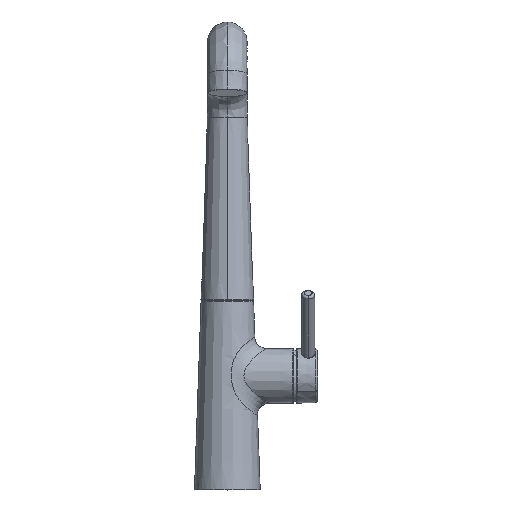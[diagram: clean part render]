
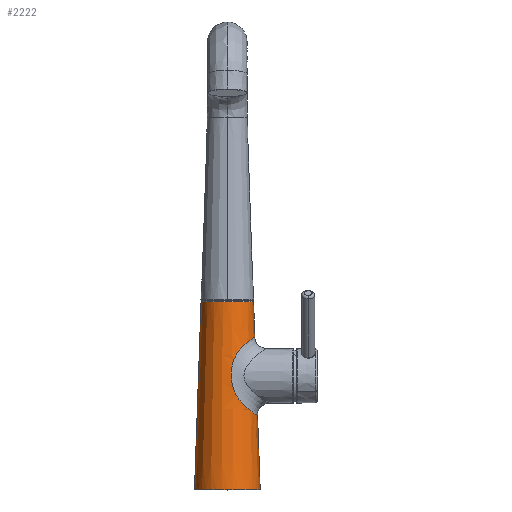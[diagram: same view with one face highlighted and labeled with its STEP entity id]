
A CAD part, top view. The second image highlights one B-rep face of the part: STEP entity #2222.
In plain terms, the highlighted conical face has half-angle 2.001 degrees and reference radius 22.813 mm.
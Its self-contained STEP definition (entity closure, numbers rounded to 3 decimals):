
#1=DIRECTION('',(0.035,0.999,0.));
#2=VECTOR('',#1,145.33);
#3=CARTESIAN_POINT('',(-25.35,0.,0.));
#4=LINE('',#3,#2);
#5=CARTESIAN_POINT('',(0.,145.241,0.));
#6=DIRECTION('',(0.,1.,0.));
#7=DIRECTION('',(-1.,0.,0.));
#8=AXIS2_PLACEMENT_3D('',#5,#6,#7);
#10=DIRECTION('',(-0.035,0.999,0.));
#11=VECTOR('',#10,27.391);
#12=CARTESIAN_POINT('',(21.233,117.867,0.));
#13=LINE('',#12,#11);
#14=DIRECTION('',(-0.035,0.999,0.));
#15=VECTOR('',#14,57.559);
#16=CARTESIAN_POINT('',(25.35,0.,0.));
#17=LINE('',#16,#15);
#18=CARTESIAN_POINT('',(0.,0.,0.));
#19=DIRECTION('',(0.,-1.,0.));
#20=DIRECTION('',(1.,0.,0.));
#21=AXIS2_PLACEMENT_3D('',#18,#19,#20);
#1543=CARTESIAN_POINT('',(3.049,87.37,22.089));
#1544=CARTESIAN_POINT('',(3.073,86.754,22.107));
#1545=CARTESIAN_POINT('',(3.151,85.523,22.14));
#1546=CARTESIAN_POINT('',(3.371,83.583,22.176));
#1547=CARTESIAN_POINT('',(3.721,81.555,22.193));
#1548=CARTESIAN_POINT('',(4.143,79.81,22.18));
#1549=CARTESIAN_POINT('',(4.551,78.444,22.148));
#1550=CARTESIAN_POINT('',(4.891,77.437,22.112));
#1551=CARTESIAN_POINT('',(5.263,76.452,22.061));
#1552=CARTESIAN_POINT('',(5.663,75.498,21.996));
#1553=CARTESIAN_POINT('',(6.084,74.583,21.917));
#1554=CARTESIAN_POINT('',(6.519,73.713,21.823));
#1555=CARTESIAN_POINT('',(6.963,72.891,21.716));
#1556=CARTESIAN_POINT('',(7.412,72.117,21.596));
#1557=CARTESIAN_POINT('',(7.861,71.392,21.464));
#1558=CARTESIAN_POINT('',(8.457,70.485,21.272));
#1559=CARTESIAN_POINT('',(9.192,69.455,21.007));
#1560=CARTESIAN_POINT('',(10.053,68.354,20.651));
#1561=CARTESIAN_POINT('',(10.893,67.362,20.26));
#1562=CARTESIAN_POINT('',(11.716,66.455,19.833));
#1563=CARTESIAN_POINT('',(12.534,65.61,19.362));
#1564=CARTESIAN_POINT('',(13.356,64.809,18.839));
#1565=CARTESIAN_POINT('',(14.188,64.042,18.255));
#1566=CARTESIAN_POINT('',(15.025,63.31,17.607));
#1567=CARTESIAN_POINT('',(15.855,62.619,16.897));
#1568=CARTESIAN_POINT('',(16.666,61.974,16.131));
#1569=CARTESIAN_POINT('',(17.449,61.378,15.313));
#1570=CARTESIAN_POINT('',(18.199,60.828,14.444));
#1571=CARTESIAN_POINT('',(18.912,60.324,13.529));
#1572=CARTESIAN_POINT('',(19.584,59.863,12.566));
#1573=CARTESIAN_POINT('',(20.22,59.441,11.546));
#1574=CARTESIAN_POINT('',(20.82,59.053,10.458));
#1575=CARTESIAN_POINT('',(21.379,58.7,9.294));
#1576=CARTESIAN_POINT('',(21.892,58.383,8.047));
#1577=CARTESIAN_POINT('',(22.354,58.104,6.698));
#1578=CARTESIAN_POINT('',(22.687,57.905,5.475));
#1579=CARTESIAN_POINT('',(22.912,57.773,4.431));
#1580=CARTESIAN_POINT('',(23.059,57.687,3.614));
#1581=CARTESIAN_POINT('',(23.179,57.617,2.761));
#1582=CARTESIAN_POINT('',(23.27,57.564,1.874));
#1583=CARTESIAN_POINT('',(23.317,57.537,1.106));
#1584=CARTESIAN_POINT('',(23.337,57.525,0.478));
#1585=CARTESIAN_POINT('',(23.341,57.523,0.16));
#1586=CARTESIAN_POINT('',(23.341,57.523,
0.));
#1588=CARTESIAN_POINT('',(19.49,116.818,8.516));
#1589=CARTESIAN_POINT('',(19.463,116.801,8.58));
#1590=CARTESIAN_POINT('',(19.267,116.678,9.032));
#1591=CARTESIAN_POINT('',(18.884,116.433,9.84));
#1592=CARTESIAN_POINT('',(18.312,116.058,10.893));
#1593=CARTESIAN_POINT('',(17.702,115.645,11.884));
#1594=CARTESIAN_POINT('',(17.053,115.191,12.822));
#1595=CARTESIAN_POINT('',(16.366,114.691,13.716));
#1596=CARTESIAN_POINT('',(15.643,114.144,14.562));
#1597=CARTESIAN_POINT('',(14.893,113.55,15.358));
#1598=CARTESIAN_POINT('',(14.12,112.908,16.1));
#1599=CARTESIAN_POINT('',(13.334,112.219,16.786));
#1600=CARTESIAN_POINT('',(12.547,111.491,17.413));
#1601=CARTESIAN_POINT('',(11.772,110.73,17.979));
#1602=CARTESIAN_POINT('',(11.009,109.934,18.489));
#1603=CARTESIAN_POINT('',(10.251,109.088,18.951));
#1604=CARTESIAN_POINT('',(9.491,108.176,19.377));
#1605=CARTESIAN_POINT('',(8.72,107.176,19.774));
#1606=CARTESIAN_POINT('',(7.937,106.067,20.143));
#1607=CARTESIAN_POINT('',(7.278,105.031,20.427));
#1608=CARTESIAN_POINT('',(6.751,104.121,20.638));
#1609=CARTESIAN_POINT('',(6.357,103.395,20.789));
#1610=CARTESIAN_POINT('',(5.969,102.624,20.932));
#1611=CARTESIAN_POINT('',(5.463,101.537,21.11));
#1612=CARTESIAN_POINT('',(4.865,100.075,21.31));
#1613=CARTESIAN_POINT('',(4.242,98.189,21.509));
#1614=CARTESIAN_POINT('',(3.74,96.216,21.67));
#1615=CARTESIAN_POINT('',(3.372,94.194,21.801));
#1616=CARTESIAN_POINT('',(3.134,92.143,21.909));
#1617=CARTESIAN_POINT('',(3.016,90.074,21.998));
#1618=CARTESIAN_POINT('',(3.012,88.48,22.055));
#1619=CARTESIAN_POINT('',(3.041,87.58,22.082));
#1620=CARTESIAN_POINT('',(3.049,87.37,22.089));
#1622=CARTESIAN_POINT('',(19.49,116.818,8.516));
#1623=CARTESIAN_POINT('',(19.643,116.914,8.158));
#1624=CARTESIAN_POINT('',(19.935,117.095,7.421));
#1625=CARTESIAN_POINT('',(20.339,117.341,6.206));
#1626=CARTESIAN_POINT('',(20.698,117.554,4.861));
#1627=CARTESIAN_POINT('',(20.989,117.725,3.364));
#1628=CARTESIAN_POINT('',(21.151,117.82,2.015));
#1629=CARTESIAN_POINT('',(21.221,117.86,0.881));
#1630=CARTESIAN_POINT('',(21.233,117.867,0.296));
#1631=CARTESIAN_POINT('',(21.233,117.867,
0.));
#2039=CARTESIAN_POINT('',(25.35,0.,0.));
#2040=CARTESIAN_POINT('',(-25.35,0.,0.));
#2041=VERTEX_POINT('',#2039);
#2042=VERTEX_POINT('',#2040);
#2055=CARTESIAN_POINT('',(20.277,145.241,0.));
#2056=CARTESIAN_POINT('',(-20.277,145.241,0.));
#2057=VERTEX_POINT('',#2055);
#2058=VERTEX_POINT('',#2056);
#2059=VERTEX_POINT('',#1622);
#2060=VERTEX_POINT('',#1631);
#2061=VERTEX_POINT('',#1620);
#2062=VERTEX_POINT('',#1586);
#2200=CARTESIAN_POINT('',(0.,72.621,0.));
#2201=DIRECTION('',(0.,-1.,0.));
#2202=DIRECTION('',(-1.,0.,0.));
#2203=AXIS2_PLACEMENT_3D('',#2200,#2201,#2202);
#2204=CONICAL_SURFACE('',#2203,22.813,2.001);
#2206=ORIENTED_EDGE('',*,*,#2205,.T.);
#2208=ORIENTED_EDGE('',*,*,#2207,.T.);
#2210=ORIENTED_EDGE('',*,*,#2209,.F.);
#2212=ORIENTED_EDGE('',*,*,#2211,.F.);
#2214=ORIENTED_EDGE('',*,*,#2213,.T.);
#2216=ORIENTED_EDGE('',*,*,#2215,.T.);
#2218=ORIENTED_EDGE('',*,*,#2217,.F.);
#2219=ORIENTED_EDGE('',*,*,#2193,.T.);
#2220=EDGE_LOOP('',(#2206,#2208,#2210,#2212,#2214,#2216,#2218,#2219));
#2221=FACE_OUTER_BOUND('',#2220,.F.);
#2222=ADVANCED_FACE('',(#2221),#2204,.T.);
#9=CIRCLE('',#8,20.277);
#22=CIRCLE('',#21,25.35);
#1587=B_SPLINE_CURVE_WITH_KNOTS('',3,(#1543,#1544,#1545,#1546,#1547,#1548,#1549,
#1550,#1551,#1552,#1553,#1554,#1555,#1556,#1557,#1558,#1559,#1560,#1561,#1562,
#1563,#1564,#1565,#1566,#1567,#1568,#1569,#1570,#1571,#1572,#1573,#1574,#1575,
#1576,#1577,#1578,#1579,#1580,#1581,#1582,#1583,#1584,#1585,#1586),
.UNSPECIFIED.,.F.,.F.,(4,1,1,1,1,1,1,1,1,1,1,1,1,1,1,1,1,1,1,1,1,1,1,1,1,1,1,1,
1,1,1,1,1,1,1,1,1,1,1,1,1,4),(0.,0.027,0.054,
0.085,0.117,0.133,0.149,
0.164,0.18,0.196,0.212,
0.227,0.243,0.259,0.275,
0.306,0.338,0.369,0.401,
0.432,0.464,0.495,0.527,
0.558,0.59,0.622,0.653,
0.685,0.716,0.748,0.779,
0.811,0.842,0.874,0.905,
0.921,0.937,0.953,0.968,
0.984,0.992,1.),.UNSPECIFIED.);
#1621=B_SPLINE_CURVE_WITH_KNOTS('',3,(#1588,#1589,#1590,#1591,#1592,#1593,#1594,
#1595,#1596,#1597,#1598,#1599,#1600,#1601,#1602,#1603,#1604,#1605,#1606,#1607,
#1608,#1609,#1610,#1611,#1612,#1613,#1614,#1615,#1616,#1617,#1618,#1619,#1620),
.UNSPECIFIED.,.F.,.F.,(4,1,1,1,1,1,1,1,1,1,1,1,1,1,1,1,1,1,1,1,1,1,1,1,1,1,1,1,
1,1,4),(0.,0.006,0.044,0.082,
0.12,0.157,0.195,0.233,
0.271,0.308,0.346,0.384,
0.422,0.46,0.497,0.535,
0.573,0.611,0.648,0.667,
0.686,0.705,0.724,0.762,
0.8,0.837,0.875,0.913,
0.951,0.988,1.),.UNSPECIFIED.);
#1632=B_SPLINE_CURVE_WITH_KNOTS('',3,(#1622,#1623,#1624,#1625,#1626,#1627,#1628,
#1629,#1630,#1631),.UNSPECIFIED.,.F.,.F.,(4,1,1,1,1,1,1,4),(0.,
0.157,0.315,0.486,0.657,
0.829,0.914,1.),.UNSPECIFIED.);
#2193=EDGE_CURVE('',#2041,#2042,#22,.T.);
#2205=EDGE_CURVE('',#2042,#2058,#4,.T.);
#2207=EDGE_CURVE('',#2058,#2057,#9,.T.);
#2209=EDGE_CURVE('',#2060,#2057,#13,.T.);
#2211=EDGE_CURVE('',#2059,#2060,#1632,.T.);
#2213=EDGE_CURVE('',#2059,#2061,#1621,.T.);
#2215=EDGE_CURVE('',#2061,#2062,#1587,.T.);
#2217=EDGE_CURVE('',#2041,#2062,#17,.T.);
